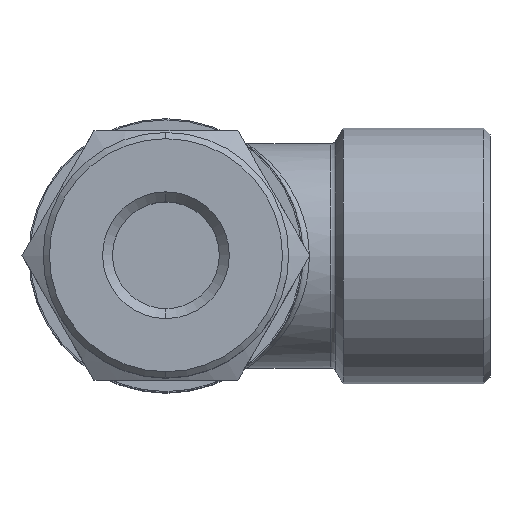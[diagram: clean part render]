
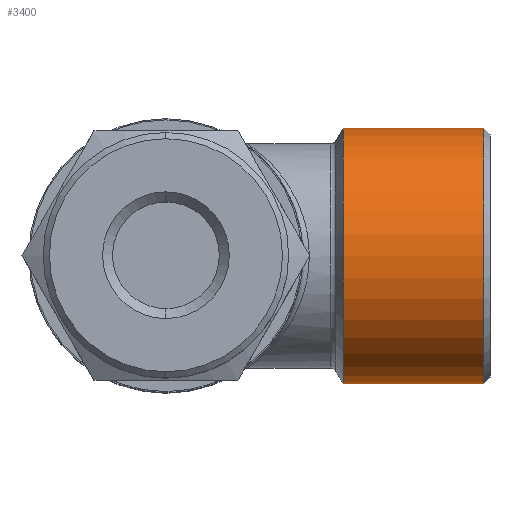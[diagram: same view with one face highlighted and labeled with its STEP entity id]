
A CAD part, top view. The second image highlights one B-rep face of the part: STEP entity #3400.
In plain terms, the highlighted cylindrical face has radius 10.25 mm (diameter 20.5 mm), a partial arc.
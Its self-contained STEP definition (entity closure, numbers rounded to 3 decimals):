
#3400=ADVANCED_FACE('', (#3410), #3420, .T.);
#13870=AXIS2_PLACEMENT_3D('Ax2Pl3d', #13880, #13890, #13900);
#14070=AXIS2_PLACEMENT_3D('Ax2Pl3d', #14080, #14090, #14100);
#14110=AXIS2_PLACEMENT_3D('Ax2Pl3d', #14120, #14130, #14140);
#36190=CARTESIAN_POINT('', (47.898,30.968,28.719));
#13880=CARTESIAN_POINT('HicPkt', (47.898,20.718,
28.719));
#36200=CARTESIAN_POINT('', (47.898,10.468,28.719));
#36220=CARTESIAN_POINT('', (36.62,30.968,28.719));
#36230=CARTESIAN_POINT('', (36.62,30.968,28.719));
#36240=CARTESIAN_POINT('', (47.898,10.468,28.719));
#36250=CARTESIAN_POINT('', (36.62,10.468,28.719));
#14080=CARTESIAN_POINT('HicPkt', (47.898,20.718,
28.719));
#14120=CARTESIAN_POINT('HicPkt', (36.62,20.718,
28.719));
#38020=CIRCLE('Circle', #13870, 10.25);
#38050=CIRCLE('Circle', #14110, 10.25);
#3420=CYLINDRICAL_SURFACE('Zyl', #14070, 10.25);
#13890=DIRECTION('Axis', (1.,0.,0.));
#13900=DIRECTION('RefDirection', (0.,0.,-1.));
#47350=DIRECTION('', (-1.,0.,0.));
#47360=DIRECTION('', (1.,0.,0.));
#14090=DIRECTION('Axis', (-1.,0.,0.)
);
#14100=DIRECTION('RefDirection', (0.,
0.,-1.));
#14130=DIRECTION('Axis', (1.,0.,0.));
#14140=DIRECTION('RefDirection', (0.,0.,-1.));
#52200=EDGE_CURVE('', #52180, #52210, #38020, .T.);
#52250=EDGE_CURVE('', #52180, #52260, #52270, .T.);
#52280=EDGE_CURVE('', #52290, #52210, #52300, .T.);
#52320=EDGE_CURVE('', #52260, #52290, #38050, .T.);
#59120=EDGE_LOOP('Edge_loop', (#59130,#59140,#59150,#59160));
#3410=FACE_OUTER_BOUND('Face_outer_bound', #59120, .T.);
#52270=LINE('Line', #36220, #62700);
#52300=LINE('Line', #36240, #62710);
#59130=ORIENTED_EDGE('', *, *, #52200, .F.);
#59140=ORIENTED_EDGE('', *, *, #52250, .T.);
#59150=ORIENTED_EDGE('', *, *, #52320, .T.);
#59160=ORIENTED_EDGE('', *, *, #52280, .T.);
#62700=VECTOR('', #47350, 11.278);
#62710=VECTOR('', #47360, 11.278);
#52180=VERTEX_POINT('', #36190);
#52210=VERTEX_POINT('', #36200);
#52260=VERTEX_POINT('', #36230);
#52290=VERTEX_POINT('', #36250);
